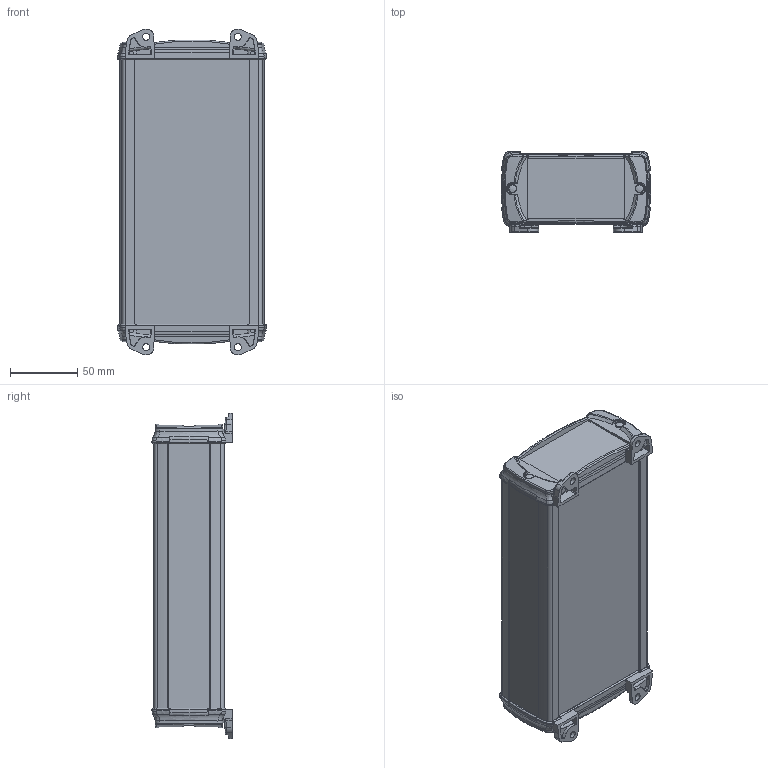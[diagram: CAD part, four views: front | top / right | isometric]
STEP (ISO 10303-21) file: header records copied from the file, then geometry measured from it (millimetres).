
FILE_DESCRIPTION((''),'2;1');
FILE_NAME('F:\User\Daten\Internet-3D-Daten\BOS-Ecoline\BS_Ecoline 1050\83105200.S2_ELP 1050-0200 DW.stp','2010-02-09T10:22:41',('nowak'),(''),'Autodesk Inventor 2010','Autodesk Inventor 2010','');
FILE_SCHEMA(('AUTOMOTIVE_DESIGN { 1 0 10303 214 1 1 1 1 }'));
Length unit declared in the file: millimetre
Products named in the file (5): ELP 1050-0100 DW; ELP 1050_1009041_3Dsym; ELDW 1050_1009061_3D; SHR Z KA30X10 WN 1412 MG_3DSYM; 1003804_3Dsym
Assembly tree (11 placements, depth 2):
  ELP 1050-0100 DW
    ELP 1050_1009041_3Dsym
    ELDW 1050_1009061_3D  x2
    SHR Z KA30X10 WN 1412 MG_3DSYM  x4
    1003804_3Dsym  x4
Bounding box: 110.71 x 59.5 x 241.45 mm (x, y, z)
Volume: 206926.1 mm3; surface area: 198409.3 mm2
Topology: 11 solids, 11 shells, 1738 faces, 4564 edges, 2810 vertices
Faces by surface type: bspline 538, plane 519, cylinder 335, cone 170, torus 160, sphere 16
Full cylindrical faces by diameter (mm): 2 x24, 5.3 x6, 5.6 x4, 6.4 x4
Entity records: 42888 total; most frequent: CARTESIAN_POINT 21716, ORIENTED_EDGE 4644, DIRECTION 4055, EDGE_CURVE 2322, AXIS2_PLACEMENT_3D 1543, VERTEX_POINT 1478, VECTOR 969, LINE 969
